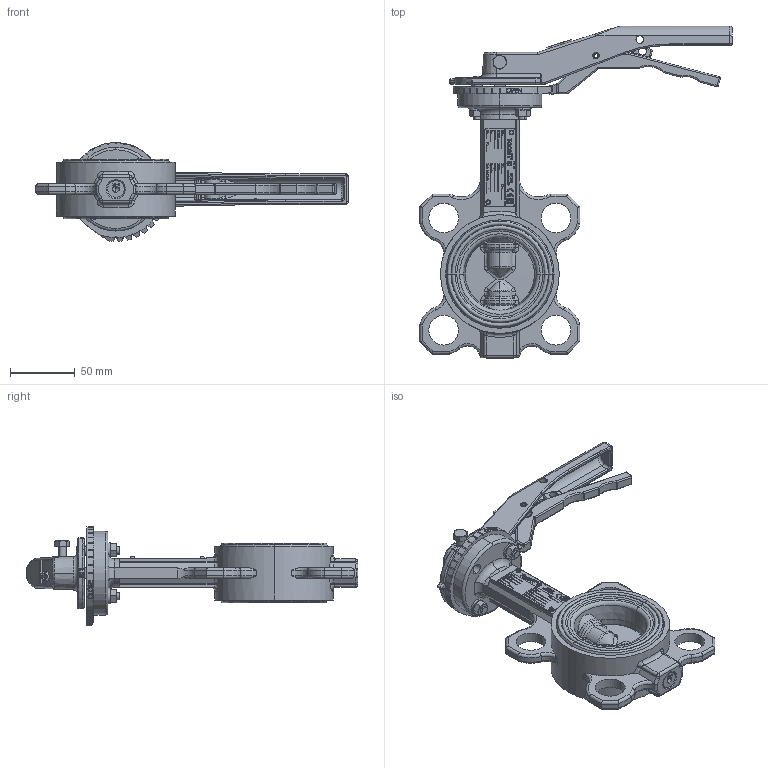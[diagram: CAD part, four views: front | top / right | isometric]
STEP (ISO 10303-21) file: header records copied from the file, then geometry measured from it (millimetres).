
FILE_DESCRIPTION (( 'STEP AP203' ), '1' );
FILE_NAME ('VPN-02 DN50.STEP', '2014-07-16T08:53:18', ( 'FAREX' ), ( '' ), 'SwSTEP 2.0', 'SolidWorks 2011', '' );
FILE_SCHEMA (( 'CONFIG_CONTROL_DESIGN' ));
Products named in the file (1): VPN-02 DN50
Bounding box: 242 x 257.2 x 76.45 mm (x, y, z)
Volume: 413184.1 mm3; surface area: 160360.1 mm2
Topology: 27 solids, 27 shells, 4057 faces, 10192 edges, 6529 vertices
Faces by surface type: bspline 1644, plane 1454, cylinder 558, torus 220, cone 127, sphere 54
Entity records: 184435 total; most frequent: CARTESIAN_POINT 98648, ORIENTED_EDGE 20234, DIRECTION 12927, EDGE_CURVE 10117, VERTEX_POINT 6523, LINE 4861, VECTOR 4861, EDGE_LOOP 4546
